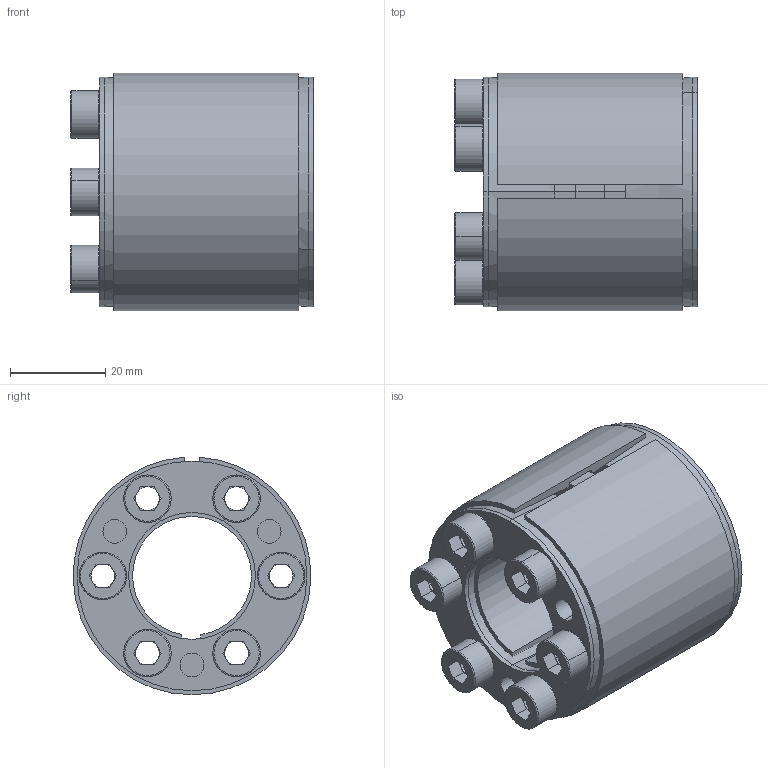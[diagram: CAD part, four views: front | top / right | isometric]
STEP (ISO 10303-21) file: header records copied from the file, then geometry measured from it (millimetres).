
FILE_DESCRIPTION (( 'STEP AP203' ), '1' );
FILE_NAME ('D4-25-50.STEP', '2017-10-14T07:44:47', ( 'MYCOM' ), ( '' ), 'SwSTEP 2.0', 'SolidWorks 2015', '' );
FILE_SCHEMA (( 'CONFIG_CONTROL_DESIGN' ));
Length unit declared in the file: millimetre
Products named in the file (1): D4-25-50
Bounding box: 50.99 x 49.98 x 49.95 mm (x, y, z)
Surface area: 27753.4 mm2 (no closed solid volume)
Topology: 0 solids, 11 shells, 180 faces, 498 edges, 328 vertices
Faces by surface type: plane 90, cylinder 55, torus 24, cone 11
Entity records: 5987 total; most frequent: CARTESIAN_POINT 1109, DIRECTION 1094, ORIENTED_EDGE 880, EDGE_CURVE 498, AXIS2_PLACEMENT_3D 433, VERTEX_POINT 328, CIRCLE 252, EDGE_LOOP 234
